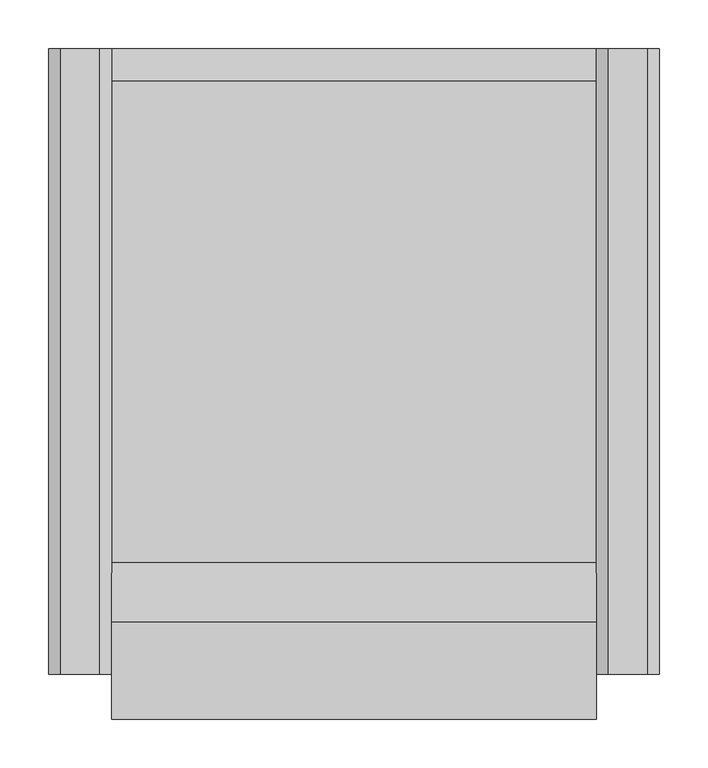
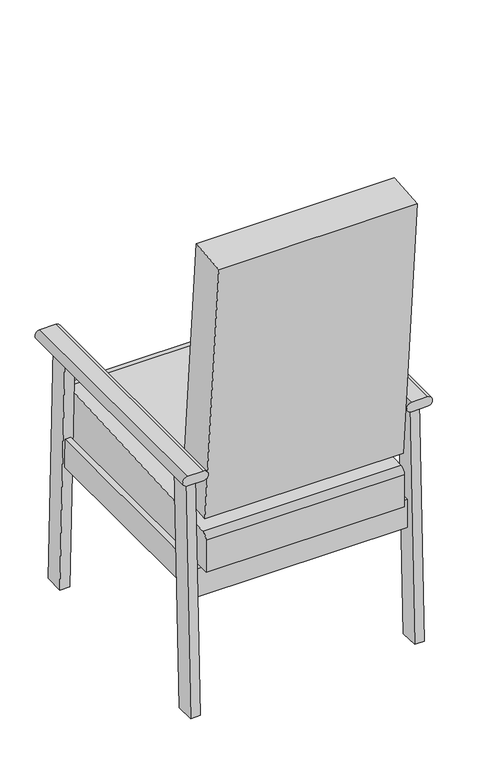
"""IFC4 building model written with IfcOpenShell, lengths in millimetres: furniture geometry, BIMHealth-Chair_High_Back-LOD2A-v1 : BIMHealth-Chair_High_Back-LOD2A-v1."""

import ifcopenshell
import ifcopenshell.guid

model = None  # the IFC model being written
_history = None  # IfcOwnerHistory: only IFC2X3 demands one
_inside = {}  # id of a spatial element -> (the spatial element, [elements in it])
_under = {}  # id of a project, library or spatial element -> (it, [spatial elements below it])
_declared = {}  # id of a project -> (the project, [libraries it declares])
_typed = {}  # id of a type object -> (the type object, [elements of that type])
_made_of = {}  # id of a material, layer set ... -> (it, [elements and type objects made of it])


def new_model(schema):
    """Start an empty IFC model of exactly this schema.

    Asked for "IFC4X3", IfcOpenShell would pick the latest addendum, in which some entities
    have other attributes; the version numbers below select the first issue.
    IFC2X3 requires an IfcOwnerHistory on every rooted entity: one is made here for all.
    """
    global model, _history
    if schema == "IFC4X3":
        model = ifcopenshell.file(schema_version=(4, 3, 0, 0))
    else:
        model = ifcopenshell.file(schema=schema)
    _inside.clear()
    _under.clear()
    _declared.clear()
    _typed.clear()
    _made_of.clear()
    _history = None
    if model.schema == "IFC2X3":
        org = make("IfcOrganization", Name="unknown")
        user = make(
            "IfcPersonAndOrganization",
            ThePerson=make("IfcPerson", FamilyName="unknown"),
            TheOrganization=org,
        )
        app = make(
            "IfcApplication",
            ApplicationDeveloper=org,
            Version="unknown",
            ApplicationFullName="unknown",
            ApplicationIdentifier="unknown",
        )
        _history = make(
            "IfcOwnerHistory",
            OwningUser=user,
            OwningApplication=app,
            ChangeAction="ADDED",
            CreationDate=0,
        )
    return model


def make(cls, **values):
    """One entity of the class cls with the attributes given. An attribute that is None is left unset."""
    return model.create_entity(
        cls, **{name: value for name, value in values.items() if value is not None}
    )


def rooted(cls, **values):
    """An entity with a GlobalId (a new one), such as an element, a storey or a relation."""
    return make(cls, GlobalId=ifcopenshell.guid.new(), OwnerHistory=_history, **values)


def si_unit(unit_type, name, prefix=None):
    """IfcSIUnit, for example si_unit("LENGTHUNIT", "METRE", prefix="MILLI")."""
    return make("IfcSIUnit", UnitType=unit_type, Prefix=prefix, Name=name)


def assignment(units):
    """IfcUnitAssignment: the units of a project."""
    return None if units is None else make("IfcUnitAssignment", Units=units)


def point(xyz):
    """IfcCartesianPoint."""
    return None if xyz is None else make("IfcCartesianPoint", Coordinates=xyz)


def direction(xyz):
    """IfcDirection."""
    return None if xyz is None else make("IfcDirection", DirectionRatios=xyz)


def frame(location, z_axis=None, x_axis=None):
    """IfcAxis2Placement3D, a coordinate frame: its origin and axes. An axis left out is left unset."""
    return make(
        "IfcAxis2Placement3D",
        Location=point(location),
        Axis=direction(z_axis),
        RefDirection=direction(x_axis),
    )


def frame_2d(location, x_axis=None):
    """IfcAxis2Placement2D, a coordinate frame in the plane: its origin and x axis."""
    return make(
        "IfcAxis2Placement2D", Location=point(location), RefDirection=direction(x_axis)
    )


def origin():
    """The frame at (0, 0, 0) with its axes left unset."""
    return frame((0.0, 0.0, 0.0))


def place(relative_to, where):
    """IfcLocalPlacement: puts the frame where relative to a parent placement (None: the world)."""
    return make(
        "IfcLocalPlacement", PlacementRelTo=relative_to, RelativePlacement=where
    )


def context(
    kind, dimensions, precision=None, world=None, true_north=None, identifier=None
):
    """IfcGeometricRepresentationContext, for example the 3D "Model" context."""
    return make(
        "IfcGeometricRepresentationContext",
        ContextIdentifier=identifier,
        ContextType=kind,
        CoordinateSpaceDimension=dimensions,
        Precision=precision,
        WorldCoordinateSystem=world,
        TrueNorth=true_north,
    )


def project(units=None, contexts=None):
    """IfcProject with its units and contexts."""
    return rooted(
        "IfcProject",
        Name="project",
        RepresentationContexts=contexts,
        UnitsInContext=assignment(units),
    )


def spatial(cls, under=None, at=None, **own):
    """A site, building, storey or space (cls), placed at a placement, below another one or the project."""
    s = rooted(cls, ObjectPlacement=at, **own)
    if under is not None:
        _under.setdefault(under.id(), (under, []))[1].append(s)
    return s


def polyline(points):
    """IfcPolyline through the points."""
    return make("IfcPolyline", Points=[point(p) for p in points])


def circle_curve(where, radius):
    """IfcCircle in the frame where."""
    return make("IfcCircle", Position=where, Radius=radius)


def trimmed(basis, trim1, trim2, sense, master):
    """IfcTrimmedCurve: the piece of a basis curve between two trims."""
    return make(
        "IfcTrimmedCurve",
        BasisCurve=basis,
        Trim1=trim1,
        Trim2=trim2,
        SenseAgreement=sense,
        MasterRepresentation=master,
    )


def segment(curve, same_sense, transition):
    """IfcCompositeCurveSegment."""
    return make(
        "IfcCompositeCurveSegment",
        Transition=transition,
        SameSense=same_sense,
        ParentCurve=curve,
    )


def composite_curve(segments, self_intersect=None):
    """IfcCompositeCurve: segments joined end to end."""
    return make("IfcCompositeCurve", Segments=segments, SelfIntersect=self_intersect)


def outline(outer, holes=None, kind="AREA"):
    """IfcArbitraryClosedProfileDef: a profile drawn as a closed curve; with holes, ...WithVoids."""
    if holes is None:
        return make("IfcArbitraryClosedProfileDef", ProfileType=kind, OuterCurve=outer)
    return make(
        "IfcArbitraryProfileDefWithVoids",
        ProfileType=kind,
        OuterCurve=outer,
        InnerCurves=holes,
    )


def extrude(swept, where, along, depth):
    """IfcExtrudedAreaSolid: the profile swept, set in the frame where, extruded along a direction by depth."""
    return make(
        "IfcExtrudedAreaSolid",
        SweptArea=swept,
        Position=where,
        ExtrudedDirection=direction(along),
        Depth=depth,
    )


def shape(context_of_items, identifier, shape_type, items):
    """IfcShapeRepresentation: the items that make up one representation, for example the "Body"."""
    return make(
        "IfcShapeRepresentation",
        ContextOfItems=context_of_items,
        RepresentationIdentifier=identifier,
        RepresentationType=shape_type,
        Items=items,
    )


def source(mapping_origin, context_of_items, identifier, shape_type, items):
    """IfcRepresentationMap: a shape defined once, which mapped items show again and again."""
    return make(
        "IfcRepresentationMap",
        MappingOrigin=mapping_origin,
        MappedRepresentation=shape(context_of_items, identifier, shape_type, items),
    )


def transform(
    local_origin,
    x_axis=None,
    y_axis=None,
    z_axis=None,
    scale=None,
    scale2=None,
    scale3=None,
    uniform=True,
):
    """IfcCartesianTransformationOperator3D, or its non-uniform kind. x_axis, y_axis, z_axis: its Axis1, 2, 3."""
    if uniform:
        return make(
            "IfcCartesianTransformationOperator3D",
            Axis1=direction(x_axis),
            Axis2=direction(y_axis),
            LocalOrigin=point(local_origin),
            Scale=scale,
            Axis3=direction(z_axis),
        )
    return make(
        "IfcCartesianTransformationOperator3DnonUniform",
        Axis1=direction(x_axis),
        Axis2=direction(y_axis),
        LocalOrigin=point(local_origin),
        Scale=scale,
        Axis3=direction(z_axis),
        Scale2=scale2,
        Scale3=scale3,
    )


def mapped(mapping_source, mapping_target):
    """IfcMappedItem: shows the shape of a source again, moved by a transform."""
    return make(
        "IfcMappedItem", MappingSource=mapping_source, MappingTarget=mapping_target
    )


def made_of(thing, what):
    """Note that an element or type object is made of a material, layer set ...; save() writes the relation."""
    if what is not None:
        _made_of.setdefault(what.id(), (what, []))[1].append(thing)
    return thing


def element(
    cls,
    number,
    at=None,
    inside=None,
    cuts=None,
    type_object=None,
    material=None,
    context=None,
    identifier="Body",
    shape_type=None,
    held_by="IfcProductDefinitionShape",
    body=None,
    shapes=None,
    **own,
):
    """One element of the class cls, such as IfcWall. Its Tag is "e" and its number.

    at: its placement. inside: the storey or other place that contains it. cuts: it is an
    opening in that element (IfcRelVoidsElement). A single representation is given by context,
    identifier, shape_type and body (its items); several are given by shapes. held_by: the class
    of the entity that holds the representations. save() writes the other relations.
    """
    e = rooted(cls, Tag="e%d" % number, ObjectPlacement=at, **own)
    if body is not None:
        shapes = [shape(context, identifier, shape_type, body)]
    if shapes is not None:
        e.Representation = make(held_by, Representations=shapes)
    if inside is not None:
        _inside.setdefault(inside.id(), (inside, []))[1].append(e)
    if cuts is not None:
        rooted(
            "IfcRelVoidsElement", RelatingBuildingElement=cuts, RelatedOpeningElement=e
        )
    if type_object is not None:
        _typed.setdefault(type_object.id(), (type_object, []))[1].append(e)
    return made_of(e, material)


def aggregate(whole, parts):
    """IfcRelAggregates: a whole, such as a stair, and the parts it consists of."""
    return rooted("IfcRelAggregates", RelatingObject=whole, RelatedObjects=parts)


def save(model, path):
    """Write the relations noted so far, then the file.

    IfcRelAggregates (storeys below a building ...), IfcRelContainedInSpatialStructure (elements
    in a storey), IfcRelDefinesByType, IfcRelAssociatesMaterial and IfcRelDeclares: one each for
    every whole, place, type object, material and project.
    """
    for whole, parts in _under.values():
        aggregate(whole, parts)
    for where, things in _inside.values():
        rooted(
            "IfcRelContainedInSpatialStructure",
            RelatedElements=things,
            RelatingStructure=where,
        )
    for kind, things in _typed.values():
        rooted("IfcRelDefinesByType", RelatedObjects=things, RelatingType=kind)
    for what, things in _made_of.values():
        rooted("IfcRelAssociatesMaterial", RelatedObjects=things, RelatingMaterial=what)
    for by, libraries in _declared.values():
        rooted("IfcRelDeclares", RelatingContext=by, RelatedDefinitions=libraries)
    model.write(path)


def furniture_01c9675c(model_context):
    return source(origin(), model_context, "Body", "SweptSolid", [
        extrude(outline(composite_curve([segment(trimmed(circle_curve(frame_2d((637.5, -7.5)), 12.5), [point((650.0, -7.5))], [point((625.0, -7.5))], False, "CARTESIAN"), True, "CONTINUOUS"), segment(polyline([(625.0, -7.5), (625.0, 32.5)]), True, "CONTINUOUS"), segment(trimmed(circle_curve(frame_2d((637.5, 32.5)), 12.5), [point((625.0, 32.5))], [point((650.0, 32.5))], False, "CARTESIAN"), True, "CONTINUOUS"), segment(polyline([(650.0, 32.5), (650.0, -7.5)]), True, "CONTINUOUS")], self_intersect=False)), frame((0.0, 45.0, 0.0), z_axis=(0.0, 1.0, 0.0), x_axis=(0.0, 0.0, 1.0)), (0.0, 0.0, 1.0), 645.0),
        extrude(outline(composite_curve([segment(trimmed(circle_curve(frame_2d((-4641.3392615, 451.69162)), 4801.6856551), [point((98.5029701, 1219.8587572))], [point((159.884929, 518.2604062))], False, "CARTESIAN"), True, "CONTINUOUS"), segment(polyline([(159.884929, 518.2604062), (59.9907404, 509.5207891)]), True, "CONTINUOUS"), segment(trimmed(circle_curve(frame_2d((-4641.3392615, 451.69162)), 4701.6856551), [point((59.9907404, 509.5207891))], [point((-1.3912185, 1211.11914))], True, "CARTESIAN"), True, "CONTINUOUS"), segment(polyline([(-1.3912185, 1211.11914), (98.5029701, 1219.8587572)]), True, "CONTINUOUS")], self_intersect=False)), frame((45.0, 0.0, 0.0), z_axis=(1.0, 0.0, 0.0), x_axis=(0.0, 1.0, 0.0)), (0.0, 0.0, 1.0), 500.0),
        extrude(outline(polyline([(601.6741923, 407.5), (604.29325, 332.5), (106.6111559, 332.5), (109.2302136, 407.5), (601.6741923, 407.5)])), frame((5.0, 0.0, 0.0), z_axis=(1.0, 0.0, 0.0), x_axis=(0.0, 1.0, 0.0)), (0.0, 0.0, 1.0), 15.0),
        extrude(outline(polyline([(0.0, 0.0), (-50.0, 0.0), (-50.0, 25.0), (0.0, 25.0), (0.0, 0.0)])), frame((565.0, 45.0304586, 1.7449748), z_axis=(0.0, 0.034899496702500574, 0.9993908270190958), x_axis=(0.0, -0.9993908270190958, 0.034899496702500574)), (0.0, 0.0, 1.0), 625.0),
        extrude(outline(polyline([(25.0, 0.0), (0.0, 0.0), (0.0, 50.0), (25.0, 50.0), (25.0, 0.0)])), frame((590.0, 665.9343136, 0.0163085), z_axis=(0.0, -0.034899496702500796, 0.9993908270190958), x_axis=(-1.0, 0.0, 0.0)), (0.0, 0.0, 1.0), 625.0),
        extrude(outline(composite_curve([segment(polyline([(650.0, 597.5), (650.0, 557.5)]), True, "CONTINUOUS"), segment(trimmed(circle_curve(frame_2d((637.5, 557.5)), 12.5), [point((650.0, 557.5))], [point((625.0, 557.5))], False, "CARTESIAN"), True, "CONTINUOUS"), segment(polyline([(625.0, 557.5), (625.0, 597.5)]), True, "CONTINUOUS"), segment(trimmed(circle_curve(frame_2d((637.5, 597.5)), 12.5), [point((625.0, 597.5))], [point((650.0, 597.5))], False, "CARTESIAN"), True, "CONTINUOUS")], self_intersect=False)), frame((0.0, 45.0, 0.0), z_axis=(0.0, 1.0, 0.0), x_axis=(0.0, 0.0, 1.0)), (0.0, 0.0, 1.0), 645.0),
        extrude(outline(polyline([(25.0, 75.8291124), (25.0, 90.8291124), (565.0, 90.8291124), (565.0, 75.8291124), (25.0, 75.8291124)])), frame((0.0, 0.0, 295.0), z_axis=(0.0, 0.0, 1.0), x_axis=(1.0, 0.0, 0.0)), (0.0, 0.0, 1.0), 75.0),
        extrude(outline(polyline([(565.0, 634.7682396), (565.0, 619.7682396), (25.0, 619.7682396), (25.0, 634.7682396), (565.0, 634.7682396)])), frame((0.0, 0.0, 295.0), z_axis=(0.0, 0.0, 1.0), x_axis=(1.0, 0.0, 0.0)), (0.0, 0.0, 1.0), 75.0),
        extrude(outline(composite_curve([segment(polyline([(55.0, 370.0), (55.0, 455.0)]), True, "CONTINUOUS"), segment(trimmed(circle_curve(frame_2d((70.8295939, 455.0)), 15.8295939), [point((55.0, 455.0))], [point((70.0005563, 470.8078695))], False, "CARTESIAN"), True, "CONTINUOUS"), segment(polyline([(70.0005563, 470.8078695), (656.4950517, 501.5663437)]), True, "CONTINUOUS"), segment(trimmed(circle_curve(frame_2d((658.1624672, 469.7725044)), 31.8375328), [point((656.4950517, 501.5663437))], [point((690.0, 469.7725044))], False, "CARTESIAN"), True, "CONTINUOUS"), segment(polyline([(690.0, 469.7725044), (690.0, 370.0), (55.0, 370.0)]), True, "CONTINUOUS")], self_intersect=False)), frame((45.0, 0.0, 0.0), z_axis=(1.0, 0.0, 0.0), x_axis=(0.0, 1.0, 0.0)), (0.0, 0.0, 1.0), 500.0),
        extrude(outline(polyline([(601.6741923, 407.5), (604.29325, 332.5), (106.6111559, 332.5), (109.2302136, 407.5), (601.6741923, 407.5)])), frame((570.0, 0.0, 0.0), z_axis=(1.0, 0.0, 0.0), x_axis=(0.0, 1.0, 0.0)), (0.0, 0.0, 1.0), 15.0),
        extrude(outline(polyline([(25.0, 0.0), (0.0, 0.0), (0.0, 50.0), (25.0, 50.0), (25.0, 0.0)])), frame((0.0, 45.0304586, 1.7449748), z_axis=(0.0, 0.034899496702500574, 0.9993908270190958), x_axis=(1.0, 0.0, 0.0)), (0.0, 0.0, 1.0), 625.0),
        extrude(outline(polyline([(0.0, 0.0), (-50.0, 0.0), (-50.0, 25.0), (0.0, 25.0), (0.0, 0.0)])), frame((25.0, 665.9343136, 0.0163085), z_axis=(0.0, -0.034899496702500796, 0.9993908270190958), x_axis=(0.0, 0.9993908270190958, 0.034899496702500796)), (0.0, 0.0, 1.0), 625.0),
    ])


if __name__ == "__main__":
    model = new_model("IFC4")
    model_context = context("Model", 3, world=origin())
    ifc_project = project(units=[si_unit("LENGTHUNIT", "METRE", prefix="MILLI")], contexts=[model_context])
    site = spatial("IfcSite", under=ifc_project)
    building = spatial("IfcBuilding", under=site)
    placement = place(None, origin())
    furniture_shape = furniture_01c9675c(model_context)
    element("IfcFurniture", 1, ObjectType="BIMHealth-Chair_High_Back-LOD2A-v1 : BIMHealth-Chair_High_Back-LOD2A-v1", at=placement, inside=building, context=model_context, shape_type="MappedRepresentation", body=[
        mapped(furniture_shape, transform((0.0, 0.0, 0.0), x_axis=(1.0, 0.0, 0.0), y_axis=(0.0, 1.0, 0.0), z_axis=(0.0, 0.0, 1.0))),
    ])
    save(model, "model.ifc")
